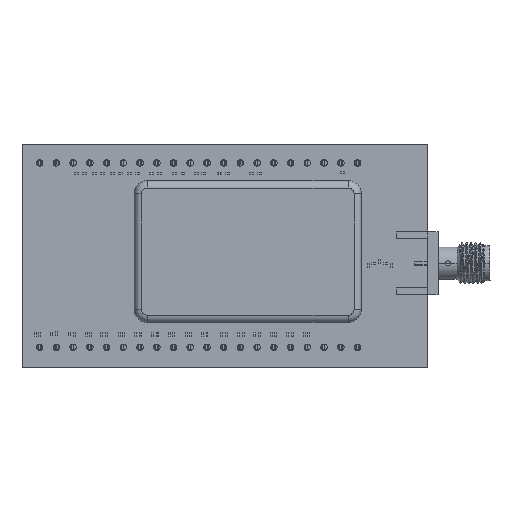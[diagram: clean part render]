
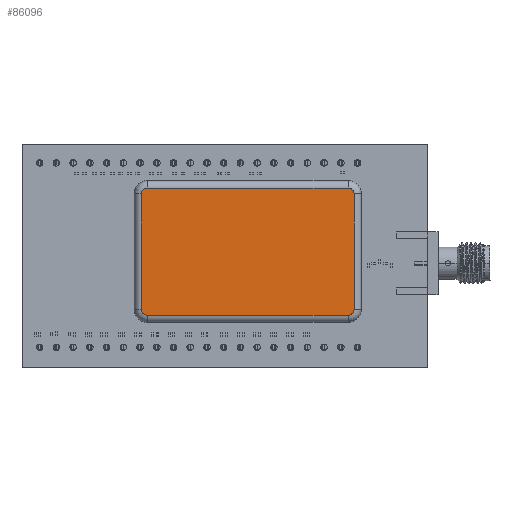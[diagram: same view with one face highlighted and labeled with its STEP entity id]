
A CAD part, top view. The second image highlights one B-rep face of the part: STEP entity #86096.
In plain terms, the highlighted planar face has unit normal (0, 0, 1) as drawn and (0, 1, 0) by its records, which use the part's own axes.
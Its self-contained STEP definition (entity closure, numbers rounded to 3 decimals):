
#86096 = ADVANCED_FACE('',(#86097),#86167,.F.);
#86097 = FACE_BOUND('',#86098,.T.);
#86098 = EDGE_LOOP('',(#86099,#86109,#86118,#86126,#86135,#86143,#86152,
    #86160));
#86099 = ORIENTED_EDGE('',*,*,#86100,.T.);
#86100 = EDGE_CURVE('',#86101,#86103,#86105,.T.);
#86101 = VERTEX_POINT('',#86102);
#86102 = CARTESIAN_POINT('',(-8.75,0.,16.15));
#86103 = VERTEX_POINT('',#86104);
#86104 = CARTESIAN_POINT('',(8.75,0.,16.15));
#86105 = LINE('',#86106,#86107);
#86106 = CARTESIAN_POINT('',(-8.75,0.,16.15));
#86107 = VECTOR('',#86108,1.);
#86108 = DIRECTION('',(1.,0.,0.));
#86109 = ORIENTED_EDGE('',*,*,#86110,.T.);
#86110 = EDGE_CURVE('',#86103,#86111,#86113,.T.);
#86111 = VERTEX_POINT('',#86112);
#86112 = CARTESIAN_POINT('',(9.65,0.,15.25));
#86113 = CIRCLE('',#86114,0.9);
#86114 = AXIS2_PLACEMENT_3D('',#86115,#86116,#86117);
#86115 = CARTESIAN_POINT('',(8.75,0.,15.25));
#86116 = DIRECTION('',(0.,1.,0.));
#86117 = DIRECTION('',(0.,0.,1.));
#86118 = ORIENTED_EDGE('',*,*,#86119,.T.);
#86119 = EDGE_CURVE('',#86111,#86120,#86122,.T.);
#86120 = VERTEX_POINT('',#86121);
#86121 = CARTESIAN_POINT('',(9.65,0.,-15.25));
#86122 = LINE('',#86123,#86124);
#86123 = CARTESIAN_POINT('',(9.65,0.,15.25));
#86124 = VECTOR('',#86125,1.);
#86125 = DIRECTION('',(0.,0.,-1.));
#86126 = ORIENTED_EDGE('',*,*,#86127,.T.);
#86127 = EDGE_CURVE('',#86120,#86128,#86130,.T.);
#86128 = VERTEX_POINT('',#86129);
#86129 = CARTESIAN_POINT('',(8.75,0.,-16.15));
#86130 = CIRCLE('',#86131,0.9);
#86131 = AXIS2_PLACEMENT_3D('',#86132,#86133,#86134);
#86132 = CARTESIAN_POINT('',(8.75,0.,-15.25));
#86133 = DIRECTION('',(0.,1.,0.));
#86134 = DIRECTION('',(1.,0.,0.));
#86135 = ORIENTED_EDGE('',*,*,#86136,.T.);
#86136 = EDGE_CURVE('',#86128,#86137,#86139,.T.);
#86137 = VERTEX_POINT('',#86138);
#86138 = CARTESIAN_POINT('',(-8.75,0.,-16.15));
#86139 = LINE('',#86140,#86141);
#86140 = CARTESIAN_POINT('',(8.75,0.,-16.15));
#86141 = VECTOR('',#86142,1.);
#86142 = DIRECTION('',(-1.,0.,0.));
#86143 = ORIENTED_EDGE('',*,*,#86144,.T.);
#86144 = EDGE_CURVE('',#86137,#86145,#86147,.T.);
#86145 = VERTEX_POINT('',#86146);
#86146 = CARTESIAN_POINT('',(-9.65,0.,-15.25));
#86147 = CIRCLE('',#86148,0.9);
#86148 = AXIS2_PLACEMENT_3D('',#86149,#86150,#86151);
#86149 = CARTESIAN_POINT('',(-8.75,0.,-15.25));
#86150 = DIRECTION('',(0.,1.,0.));
#86151 = DIRECTION('',(0.,0.,-1.));
#86152 = ORIENTED_EDGE('',*,*,#86153,.T.);
#86153 = EDGE_CURVE('',#86145,#86154,#86156,.T.);
#86154 = VERTEX_POINT('',#86155);
#86155 = CARTESIAN_POINT('',(-9.65,0.,15.25));
#86156 = LINE('',#86157,#86158);
#86157 = CARTESIAN_POINT('',(-9.65,0.,-15.25));
#86158 = VECTOR('',#86159,1.);
#86159 = DIRECTION('',(0.,0.,1.));
#86160 = ORIENTED_EDGE('',*,*,#86161,.T.);
#86161 = EDGE_CURVE('',#86154,#86101,#86162,.T.);
#86162 = CIRCLE('',#86163,0.9);
#86163 = AXIS2_PLACEMENT_3D('',#86164,#86165,#86166);
#86164 = CARTESIAN_POINT('',(-8.75,0.,15.25));
#86165 = DIRECTION('',(0.,1.,0.));
#86166 = DIRECTION('',(-1.,0.,0.));
#86167 = PLANE('',#86168);
#86168 = AXIS2_PLACEMENT_3D('',#86169,#86170,#86171);
#86169 = CARTESIAN_POINT('',(8.75,0.,15.25));
#86170 = DIRECTION('',(0.,-1.,0.));
#86171 = DIRECTION('',(0.,0.,-1.));
